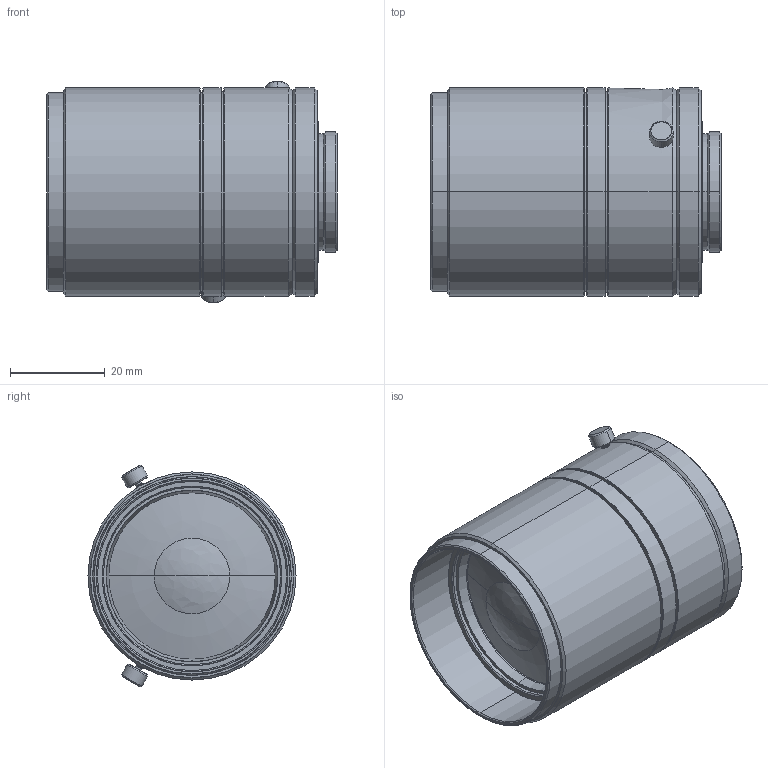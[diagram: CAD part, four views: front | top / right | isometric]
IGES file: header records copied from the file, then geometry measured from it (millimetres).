
Start section: SolidWorks IGES file using analytic representation for surfaces
Global section: file name: \\192.168.1.203\Development\06 俠俠俿倁儗儞僘\02 SV-H series\050 SV-5014H\3D\SV-5014H.IGS; native system: SolidWorks 2012; preprocessor: SolidWorks 2012; author: a-3DCAD2; date: 120601.165416; units: millimetre
Bounding box: 61.5 x 44.01 x 46.89 mm (x, y, z)
Surface area: 13759 mm2 (no closed solid volume)
Topology: 0 solids, 0 shells, 122 faces, 2224 edges, 2222 vertices
Faces by surface type: revolution 104, bspline 18
